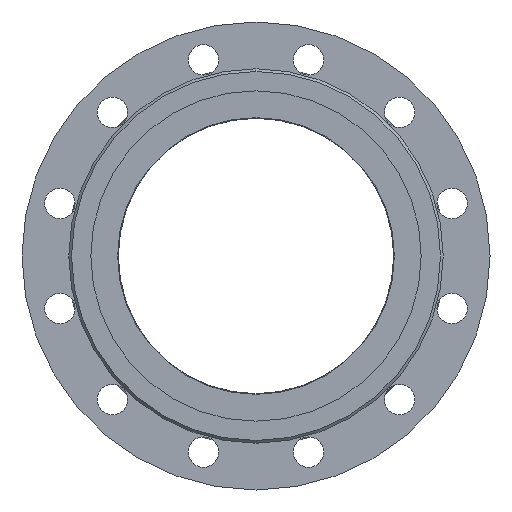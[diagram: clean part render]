
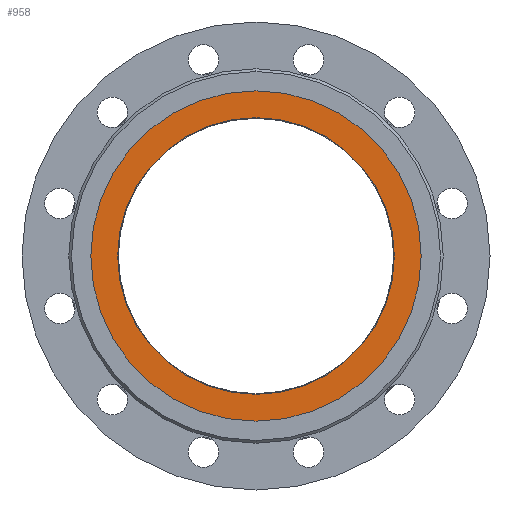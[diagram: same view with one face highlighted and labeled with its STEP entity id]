
A CAD part, left-side view. The second image highlights one B-rep face of the part: STEP entity #958.
In plain terms, the highlighted planar face has unit normal (-1, 0, 0).
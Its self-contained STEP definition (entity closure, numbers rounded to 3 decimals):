
#958=ADVANCED_FACE('',(#1886,#1887),#1888,.F.);
#1886=FACE_BOUND('',#3049,.T.);
#1887=FACE_OUTER_BOUND('',#3050,.T.);
#1888=PLANE('',#3051);
#3049=EDGE_LOOP('',(#4669,#4670));
#3050=EDGE_LOOP('',(#4671,#4672));
#3051=AXIS2_PLACEMENT_3D('',#4673,#4674,#4675);
#4669=ORIENTED_EDGE('',*,*,#6739,.T.);
#4670=ORIENTED_EDGE('',*,*,#6740,.T.);
#4671=ORIENTED_EDGE('',*,*,#6581,.F.);
#4672=ORIENTED_EDGE('',*,*,#6741,.F.);
#4673=CARTESIAN_POINT('',(0.0,0.0,0.));
#4674=DIRECTION('',(1.0,0.0,0.));
#4675=DIRECTION('',(0.,0.0,-1.0));
#6581=EDGE_CURVE('',#7854,#7857,#7858,.T.);
#6739=EDGE_CURVE('',#8085,#8086,#8087,.T.);
#6740=EDGE_CURVE('',#8086,#8085,#8088,.T.);
#6741=EDGE_CURVE('',#7857,#7854,#8089,.T.);
#7854=VERTEX_POINT('',#9482);
#7857=VERTEX_POINT('',#9486);
#7858=CIRCLE('',#9487,120.0);
#8085=VERTEX_POINT('',#9782);
#8086=VERTEX_POINT('',#9783);
#8087=CIRCLE('',#9784,100.5);
#8088=CIRCLE('',#9785,100.5);
#8089=CIRCLE('',#9786,120.0);
#9482=CARTESIAN_POINT('',(0.,0.0,-120.0));
#9486=CARTESIAN_POINT('',(0.,0.,120.0));
#9487=AXIS2_PLACEMENT_3D('',#11027,#11028,#11029);
#9782=CARTESIAN_POINT('',(0.,0.0,-100.5));
#9783=CARTESIAN_POINT('',(0.,0.,100.5));
#9784=AXIS2_PLACEMENT_3D('',#11224,#11225,#11226);
#9785=AXIS2_PLACEMENT_3D('',#11227,#11228,#11229);
#9786=AXIS2_PLACEMENT_3D('',#11230,#11231,#11232);
#11027=CARTESIAN_POINT('',(0.0,0.0,0.));
#11028=DIRECTION('',(1.0,0.0,0.));
#11029=DIRECTION('',(0.,0.0,-1.0));
#11224=CARTESIAN_POINT('',(0.0,0.0,0.));
#11225=DIRECTION('',(1.0,0.0,0.));
#11226=DIRECTION('',(0.,0.0,-1.0));
#11227=CARTESIAN_POINT('',(0.0,0.0,0.));
#11228=DIRECTION('',(1.0,0.0,0.));
#11229=DIRECTION('',(0.,0.0,-1.0));
#11230=CARTESIAN_POINT('',(0.0,0.0,0.));
#11231=DIRECTION('',(1.0,0.0,0.));
#11232=DIRECTION('',(0.,0.0,-1.0));
